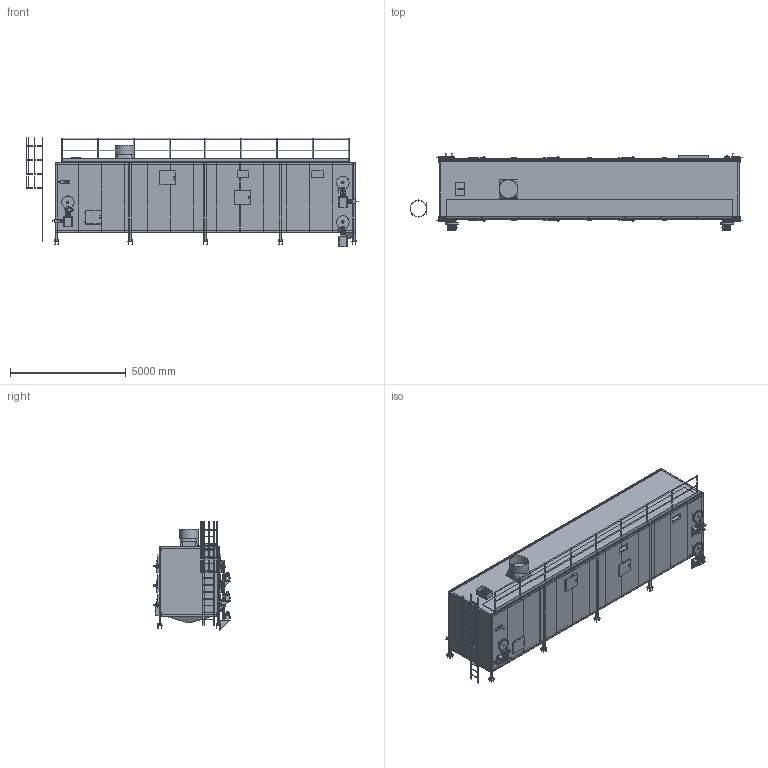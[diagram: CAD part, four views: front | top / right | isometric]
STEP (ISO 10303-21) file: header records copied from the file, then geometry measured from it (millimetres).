
FILE_DESCRIPTION(('Open CASCADE Model'),'2;1');
FILE_NAME('Open CASCADE Shape Model','2026-11-20T01:15:27',('Author'),( 'Open CASCADE'),'Open CASCADE STEP processor 7.9','Open CASCADE 7.9' ,'Unknown');
FILE_SCHEMA(('AUTOMOTIVE_DESIGN { 1 0 10303 214 1 1 1 1 }'));
Length unit declared in the file: millimetre
Products named in the file (70): Granja_integrada_Secador_SC4; Secador_SC-4; 4.11a_1; 4.11b_1; 4.20_1; 4.17_1; 4.17a_1; 4.8a_1; 4.8b_1; 4.8c_1; 4.8d_1; 4.8e_1; 4.8f_1; 4.9_1; 4.1-1_1; 4.2-1_1; 4.2.1-1_1; 4.4-1_1; 4.16-1_1; 4.3-1_1; 4.3.1-1_1; 4.14-1_1; 4.6-1_1; 4.7-1_1; 4.21-1_1; 4.15-1_1; 4.15c-1_1; 4.5-1_1; M5_1; 4.16b-1_1; 4.1-2_1; 4.2-2_1; 4.2.1-2_1; 4.4-2_1; 4.16-2_1; 4.3-2_1; 4.3.1-2_1; 4.14-2_1; 4.6-2_1; 4.7-2_1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
Assembly tree (69 placements, depth 3):
  Granja_integrada_Secador_SC4
    Secador_SC-4
      4.11a_1
      4.11b_1
      4.20_1
      4.17_1
      4.17a_1
      4.8a_1
      4.8b_1
      4.8c_1
      4.8d_1
      4.8e_1
      4.8f_1
      4.9_1
      4.1-1_1
      4.2-1_1
      4.2.1-1_1
      4.4-1_1
      4.16-1_1
      4.3-1_1
      4.3.1-1_1
      4.14-1_1
      4.6-1_1
      4.7-1_1
      4.21-1_1
      4.15-1_1
      4.15c-1_1
      4.5-1_1
      M5_1
      4.16b-1_1
      4.1-2_1
      4.2-2_1
      4.2.1-2_1
      4.4-2_1
      4.16-2_1
      4.3-2_1
      4.3.1-2_1
      4.14-2_1
      4.6-2_1
      4.7-2_1
      4.21-2_1
      4.15-2_1
      4.15c-2_1
      4.5-2_1
      M6_1
      4.16b-2_1
      4.1-3_1
      4.2-3_1
      4.2.1-3_1
      4.4-3_1
      4.16-3_1
      4.3-3_1
      4.3.1-3_1
      4.14-3_1
      4.6-3_1
      4.7-3_1
      4.21-3_1
      4.15-3_1
      4.15c-3_1
      4.5-3_1
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Bounding box: 14365 x 3355 x 4728 mm (x, y, z)
Volume: 14697940750 mm3; surface area: 893655776.8 mm2
Topology: 931 solids, 931 shells, 5194 faces, 10002 edges, 6668 vertices
Faces by surface type: plane 4708, cylinder 474, bspline 9, cone 3
Full cylindrical faces by diameter (mm): 8 x6, 10 x12, 12 x3, 16 x64, 18 x43, 19 x27, 20 x21, 24 x38, 30 x40, 34 x1, 42 x10, 50 x15, 52 x6, 60 x27, 64 x6, 72 x3, 79.625 x3, 80 x4, 83 x15, 89 x15, 96 x3, 100 x3, 104 x12, 116 x18, 124 x3, 137.6 x3, 144 x6, 238 x9, 250 x3, 292 x9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
Entity records: 136307 total; most frequent: CARTESIAN_POINT 22046, DIRECTION 21462, ORIENTED_EDGE 20004, EDGE_CURVE 10002, LINE 9034, VECTOR 9034, VERTEX_POINT 6668, AXIS2_PLACEMENT_3D 6214
